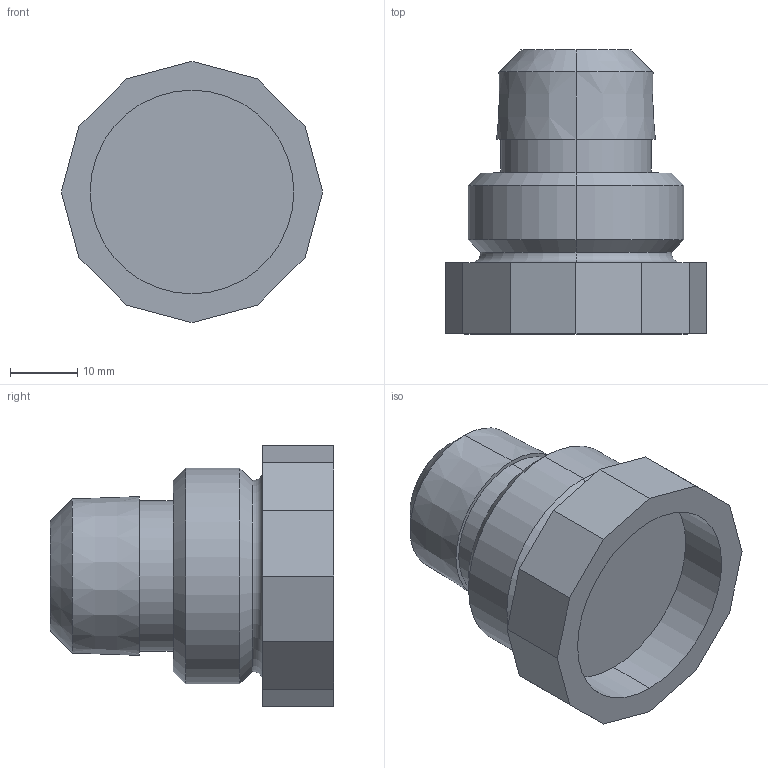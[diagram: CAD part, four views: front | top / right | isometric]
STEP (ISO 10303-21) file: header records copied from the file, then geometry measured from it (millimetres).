
FILE_DESCRIPTION (( 'STEP AP214' ), '1' );
FILE_NAME ('R07-100-RNEA_PART2.step', '2025-12-23T15:58:18', ( '' ), ( '' ), 'SwSTEP 2.0', 'SolidWorks 2026', '' );
FILE_SCHEMA (( 'AUTOMOTIVE_DESIGN' ));
Length unit declared in the file: inch
Products named in the file (1): R07-100-RNEA_PART2
Bounding box: 38.73 x 42.09 x 38.73 mm (x, y, z)
Volume: 23267 mm3; surface area: 7091.4 mm2
Topology: 1 solids, 1 shells, 39 faces, 86 edges, 54 vertices
Faces by surface type: plane 19, cylinder 10, cone 8, torus 2
Entity records: 1099 total; most frequent: DIRECTION 198, CARTESIAN_POINT 180, ORIENTED_EDGE 172, EDGE_CURVE 86, AXIS2_PLACEMENT_3D 72, VERTEX_POINT 54, LINE 54, VECTOR 54
